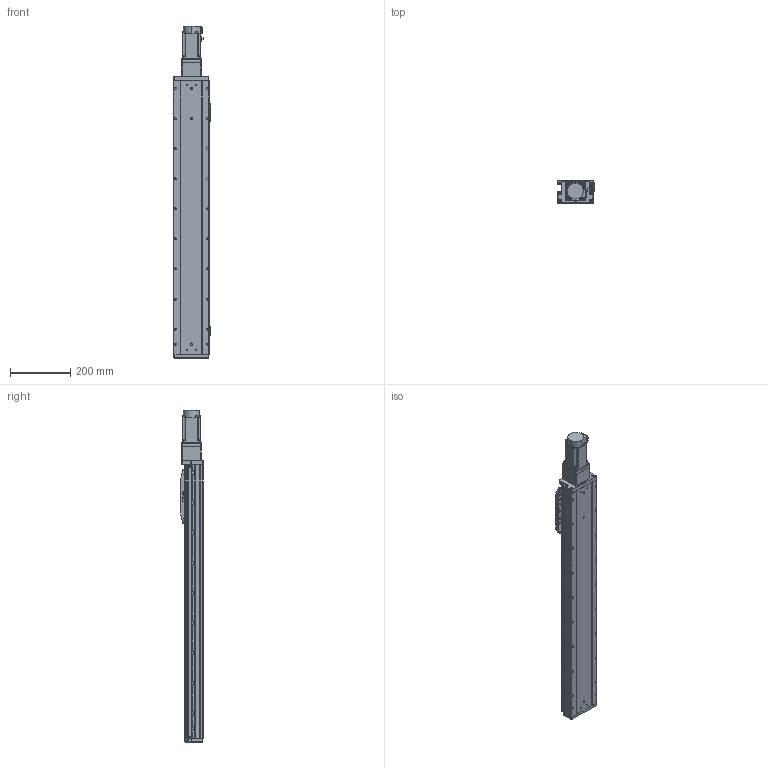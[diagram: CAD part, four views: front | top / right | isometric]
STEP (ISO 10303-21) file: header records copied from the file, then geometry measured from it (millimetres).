
FILE_DESCRIPTION (( 'STEP AP203' ), '1' );
FILE_NAME ('GTH12-700-BC-M40-C4.step', '2022-09-23T01:15:37', ( '微软用户' ), ( '微软中国' ), 'SwSTEP 2.0', 'SolidWorks 2020', '' );
FILE_SCHEMA (( 'CONFIG_CONTROL_DESIGN' ));
Length unit declared in the file: millimetre
Products named in the file (19): CTHA86-013; GTH120-006; GTH80-028; CTHA86-027; GTH120-004; GTH50-023; hg-kn43j_-s100_; GTH120-013; GTH50-024; GTH12-700-BC-M40-C4; GBT 70.1-M3℅6; GBT96.1-2002 3×0.8; GBT 70.1-M5×16; BTH-M3X5X6; GTH120-001_700; GBT 70.3-M3℅8; CTHA86-006-1_CTHA86-006-2; GTH120-003; GTH80-022
Assembly tree (62 placements, depth 2):
  GTH12-700-BC-M40-C4
    GTH120-001_700
    GTH120-003
    GTH120-006
    GTH120-004
    GTH120-013
    GBT 70.1-M3℅6  x14
    GBT 70.1-M5×16  x10
    GBT 70.3-M3℅8  x6
    GTH80-022
    GTH80-028  x2
    GTH50-023  x3
    GTH50-024  x3
    GBT96.1-2002 3×0.8  x6
    BTH-M3X5X6  x8
    CTHA86-006-1_CTHA86-006-2
    CTHA86-013
    CTHA86-027
    hg-kn43j_-s100_
Bounding box: 125.7 x 76 x 1103.7 mm (x, y, z)
Volume: 7006326 mm3; surface area: 635960.5 mm2
Topology: 64 solids, 64 shells, 2487 faces, 5774 edges, 3519 vertices
Faces by surface type: plane 1264, cylinder 710, cone 335, torus 170, sphere 8
Entity records: 45011 total; most frequent: DIRECTION 7532, CARTESIAN_POINT 7228, ORIENTED_EDGE 6930, EDGE_CURVE 3465, AXIS2_PLACEMENT_3D 2632, LINE 2268, VECTOR 2268, VERTEX_POINT 2178
